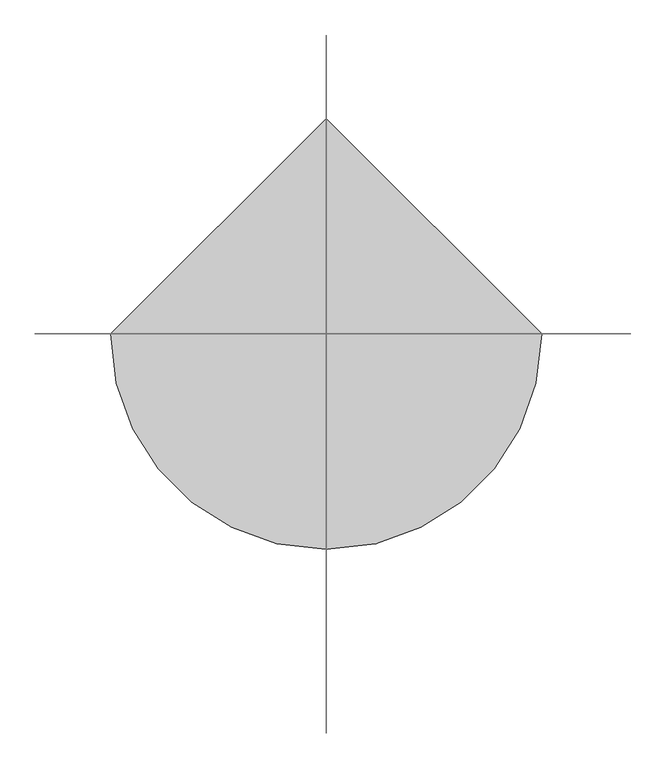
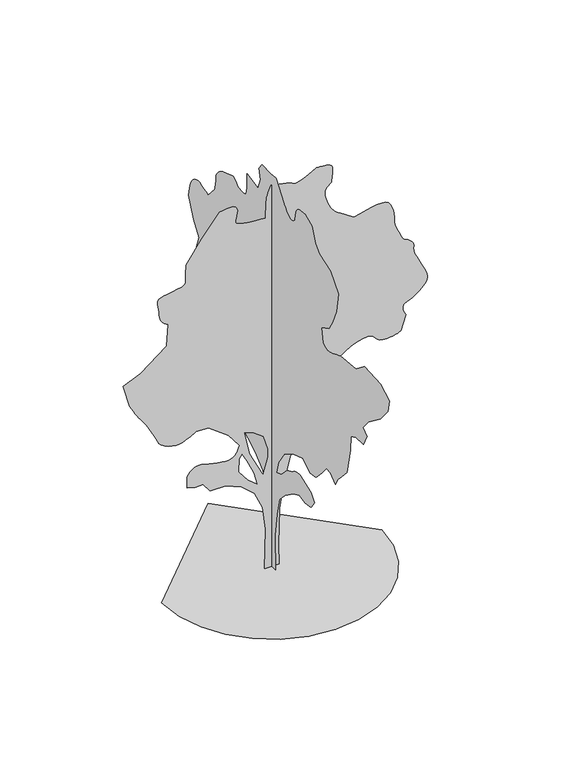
"""IFC4 building model written with IfcOpenShell, lengths in millimetres: geographic element geometry, Vegetacion PAEMFE : CIRUELO DE JARDIN."""

from ifc_helpers import new_model, si_unit, origin, place, context, project, spatial, triangles, source, transform, mapped, element, save


def geographic_element_5d79db10(model_context):
    return source(origin(), model_context, "Body", "Tessellation", [
        triangles([(-0.0042912, 116.0017584, 0.0091155), (-0.0042912, -112.1466976, 0.0091155), (-0.0042912, -91.4060758, 611.8588011), (-0.0042912, -153.6279592, 1016.303591), (-0.0042912, -226.2207303, 1327.4149063), (-0.0042912, -392.1480841, 1503.7101048), (-0.0042912, -641.0332558, 1680.009082), (-0.0042912, -806.9606277, 1752.599128), (-0.0042912, -972.8879997, 1721.4880909), (-0.0042912, -1149.1831255, 1752.599128), (-0.0042912, -1242.5166, 1887.4154629), (-0.0042912, -1149.1831255, 2011.8599018), (-0.0042912, -817.3323057, 2125.9328808), (-0.0042912, -788.4884268, 2123.607296), (-0.0042912, -759.9166969, 2120.6439594), (-0.0042912, -731.8894833, 2116.4088982), (-0.0042912, -704.6788622, 2110.2722088), (-0.0042912, -678.5572008, 2101.5961395), (-0.0042912, -653.792724, 2089.7427933), (-0.0042912, -630.665502, 2074.0822666), (-0.0042912, -607.5343921, 2057.2122208), (-0.0042912, -582.7738031, 2041.9715813), (-0.0042912, -556.6521054, 2028.0961201), (-0.0042912, -529.4415207, 2015.3054764), (-0.0042912, -501.414307, 2003.3354221), (-0.0042912, -472.8426135, 1991.9060326), (-0.0042912, -443.9986982, 1980.7488647), (-0.0042912, -288.4426227, 1814.8214928), (-0.0042912, -132.8873284, 1752.599128), (-0.0042912, -195.1096024, 1970.3771141), (-0.0042912, -371.4055275, 2229.637888), (-0.0042912, -620.293824, 2385.1935093), (-0.0042912, -910.6657076, 2478.5269112), (-0.0042912, -1118.0720158, 2343.7107216), (-0.0042912, -1283.9993877, 2364.4540775), (-0.0042912, -1460.2944408, 2551.1169571), (-0.0042912, -1595.1107758, 2717.0443291), (-0.0042912, -1719.5514359, 2706.6725784), (-0.0042912, -1854.3676254, 2582.232209), (-0.0042912, -1937.3292767, 2727.4160797), (-0.0042912, -2030.6626785, 2831.117308), (-0.0042912, -2196.5900505, 3007.4164307), (-0.0042912, -2300.2912788, 3474.0832947), (-0.0042912, -2310.6630295, 3722.9724632), (-0.0042912, -2455.8509697, 3785.1907585), (-0.0042912, -2683.996637, 3805.9342598), (-0.0042912, -2777.3298935, 4002.9533386), (-0.0042912, -2663.2572052, 4096.2865952), (-0.0042912, -2818.8128265, 4282.9533989), (-0.0042912, -3171.4032234, 4552.6093231), (-0.0042912, -3399.5526695, 4822.2260056), (-0.0042912, -3441.0315331, 5040.0039917), (-0.0042912, -3181.7746834, 5185.1765259), (-0.0042912, -2704.7360687, 5205.9432816), (-0.0042912, -2466.2186508, 5019.2761871), (-0.0042912, -2009.9232468, 4967.3985397), (-0.0042912, -1947.9421463, 4943.0930466), (-0.0042912, -1887.4154629, 4919.6037827), (-0.0042912, -1829.785841, 4897.74814), (-0.0042912, -1776.5158367, 4878.3429291), (-0.0042912, -1729.0480946, 4862.2037979), (-0.0042912, -1688.8368862, 4850.1484291), (-0.0042912, -1657.329071, 4842.9538101), (-0.0042912, -1629.1229439, 4842.5648804), (-0.0042912, -1599.279562, 4848.7095634), (-0.0042912, -1569.9845478, 4859.0150391), (-0.0042912, -1543.4079723, 4871.1483101), (-0.0042912, -1521.7312431, 4882.7374283), (-0.0042912, -1507.1283554, 4891.4095734), (-0.0042912, -1501.7734497, 4894.8314575), (-0.0042912, -1449.9228355, 5143.7209167), (-0.0042912, -1667.7008217, 5257.7819778), (-0.0042912, -1771.4058289, 5423.7212677), (-0.0042912, -1885.4786625, 5693.3379501), (-0.0042912, -1947.7010273, 6035.5606659), (-0.0042912, -1709.1836094, 6305.1773483), (-0.0042912, -1398.0722214, 6419.2773605), (-0.0042912, -1273.6276371, 6533.3384216), (-0.0042912, -1180.2943079, 6782.2278809), (-0.0042912, -962.5163218, 6865.1774689), (-0.0042912, -927.0496639, 6865.0222458), (-0.0042912, -892.1313011, 6863.9723099), (-0.0042912, -858.2979012, 6861.0945786), (-0.0042912, -826.0979044, 6855.5332901), (-0.0042912, -796.075609, 6846.2774597), (-0.0042912, -768.7756039, 6832.5498093), (-0.0042912, -744.7384083, 6813.3387726), (-0.0042912, -725.2356016, 6789.3053558), (-0.0042912, -710.6327866, 6762.005278), (-0.0042912, -700.1133705, 6731.9832733), (-0.0042912, -692.8566914, 6699.7829132), (-0.0042912, -688.050008, 6665.9495132), (-0.0042912, -684.8728037, 6631.0278076), (-0.0042912, -682.5161161, 6595.5607864), (-0.0042912, -664.6193888, 6575.8050156), (-0.0042912, -645.9916014, 6557.6049637), (-0.0042912, -625.9171726, 6542.5163498), (-0.0042912, -603.6649335, 6532.0164093), (-0.0042912, -578.5115633, 6527.6998123), (-0.0042912, -549.726002, 6531.0827454), (-0.0042912, -516.5887442, 6543.7220901), (-0.0042912, -483.7548471, 6562.0773651), (-0.0042912, -455.8209054, 6581.5610596), (-0.0042912, -431.9664748, 6601.9388855), (-0.0042912, -411.3747811, 6623.0550385), (-0.0042912, -393.2330832, 6644.6775558), (-0.0042912, -376.726678, 6666.6884216), (-0.0042912, -361.0350122, 6688.894043), (-0.0042912, -215.8502332, 6885.9442245), (-0.0042912, -122.5168222, 7000.005867), (-0.0042912, 33.0389376, 6989.6221985), (-0.0042912, 281.9275589, 7000.005867), (-0.0042912, 375.2605611, 6875.5611374), (-0.0042912, 333.7793358, 6699.2777115), (-0.0042912, 406.3736692, 6502.2275299), (-0.0042912, 727.8528111, 6564.4498947), (-0.0042912, 727.8528111, 6336.2882401), (-0.0042912, 730.2406013, 6300.9770233), (-0.0042912, 733.6278219, 6266.8715469), (-0.0042912, 739.0100515, 6235.3327744), (-0.0042912, 747.3867205, 6207.6437668), (-0.0042912, 759.7494833, 6184.9718948), (-0.0042912, 777.1056187, 6168.6769592), (-0.0042912, 800.4467812, 6160.0048141), (-0.0042912, 827.112886, 6156.7771042), (-0.0042912, 853.7789909, 6155.7271683), (-0.0042912, 880.4451685, 6156.4660767), (-0.0042912, 907.1112734, 6158.6828018), (-0.0042912, 933.7773783, 6161.988414), (-0.0042912, 960.4474073, 6165.9939835), (-0.0042912, 987.1135849, 6170.3884827), (-0.0042912, 1011.570813, 6194.5771225), (-0.0042912, 1036.1213493, 6217.44375), (-0.0042912, 1060.8547234, 6237.5884506), (-0.0042912, 1085.856395, 6253.6496796), (-0.0042912, 1111.2236692, 6264.265892), (-0.0042912, 1137.0459303, 6268.0772873), (-0.0042912, 1163.4087107, 6263.7217392), (-0.0042912, 1443.408989, 6170.3884827), (-0.0042912, 1483.1378139, 6143.6325577), (-0.0042912, 1521.2334538, 6116.3324799), (-0.0042912, 1556.0622871, 6087.943515), (-0.0042912, 1585.9951984, 6057.9215103), (-0.0042912, 1609.3946423, 6025.7217316), (-0.0042912, 1624.6313576, 5990.7994446), (-0.0042912, 1630.0757927, 5952.6104965), (-0.0042912, 1631.2851665, 5913.4878845), (-0.0042912, 1634.6724598, 5876.0378448), (-0.0042912, 1639.8718517, 5839.94935), (-0.0042912, 1646.5218819, 5804.9491608), (-0.0042912, 1654.260799, 5770.7268311), (-0.0042912, 1662.726852, 5737.0881866), (-0.0042912, 1671.5546562, 5703.7210373), (-0.0042912, 1868.5932106, 5485.9430511), (-0.0042912, 1928.5171692, 5512.1931931), (-0.0042912, 1987.9899925, 5536.1097565), (-0.0042912, 2046.552697, 5555.3213745), (-0.0042912, 2103.754438, 5567.4543549), (-0.0042912, 2159.143935, 5570.137912), (-0.0042912, 2212.2662739, 5561.037886), (-0.0042912, 2262.6662498, 5537.7823288), (-0.0042912, 2306.416341, 5501.849057), (-0.0042912, 2340.9146713, 5457.1657379), (-0.0042912, 2367.7014084, 5405.248558), (-0.0042912, 2388.320208, 5347.5375458), (-0.0042912, 2404.3153072, 5285.4709854), (-0.0042912, 2417.2264378, 5220.4877426), (-0.0042912, 2428.5936218, 5154.0650528), (-0.0042912, 2293.7774323, 4801.498201), (-0.0042912, 2127.8539845, 4573.3371277), (-0.0042912, 2262.6662498, 4200.0032295), (-0.0042912, 2138.2216656, 4002.9533386), (-0.0042912, 2087.4288357, 3985.0643143), (-0.0042912, 2038.5417034, 3966.4363815), (-0.0042912, 1993.4616062, 3946.3698738), (-0.0042912, 1954.0943871, 3924.1253014), (-0.0042912, 1922.3493771, 3898.9643372), (-0.0042912, 1900.1282043, 3870.1826637), (-0.0042912, 1889.3326424, 3837.0451515), (-0.0042912, 1885.7976837, 3801.7923615), (-0.0042912, 1883.8921314, 3767.0802361), (-0.0042912, 1883.3476879, 3732.8268036), (-0.0042912, 1883.8921314, 3698.9352676), (-0.0042912, 1885.2532402, 3665.3117386), (-0.0042912, 1887.1587925, 3631.8751167), (-0.0042912, 1889.3326424, 3598.5239548), (-0.0042912, 1847.8536335, 3432.6006523), (-0.0042912, 1557.4818226, 3463.711544), (-0.0042912, 1533.3550976, 3415.0342827), (-0.0042912, 1511.1339249, 3367.6249672), (-0.0042912, 1492.7200779, 3322.7588104), (-0.0042912, 1480.0228878, 3281.6999794), (-0.0042912, 1474.9439827, 3245.723687), (-0.0042912, 1479.3889149, 3216.0903214), (-0.0042912, 1495.2594578, 3194.0832344), (-0.0042912, 1520.9884106, 3175.820977), (-0.0042912, 1552.5234043, 3157.1971138), (-0.0042912, 1588.0485615, 3139.1174034), (-0.0042912, 1625.7513474, 3122.4884766), (-0.0042912, 1663.8157391, 3108.2163826), (-0.0042912, 1700.4296379, 3097.2109497), (-0.0042912, 1733.7768757, 3090.3779366), (-0.0042912, 1763.9820087, 3084.4201607), (-0.0042912, 1792.5536659, 3075.7442368), (-0.0042912, 1819.7642143, 3064.8007187), (-0.0042912, 1845.8858757, 3052.0413231), (-0.0042912, 1871.194796, 3037.9206734), (-0.0042912, 1895.9553486, 3022.8939743), (-0.0042912, 1920.4438248, 3007.4164307), (-0.0042912, 2158.9650215, 3131.8608696), (-0.0042912, 2227.5339466, 3149.364743), (-0.0042912, 2294.2012436, 3165.2390648), (-0.0042912, 2357.057436, 3177.8470161), (-0.0042912, 2414.2007504, 3185.5546852), (-0.0042912, 2463.7257797, 3186.7331017), (-0.0042912, 2503.7271172, 3179.7524231), (-0.0042912, 2532.2948502, 3162.972052), (-0.0042912, 2551.1948593, 3138.6313866), (-0.0042912, 2564.1019203, 3110.4836861), (-0.0042912, 2572.0238205, 3079.1623421), (-0.0042912, 2575.9552666, 3045.29813), (-0.0042912, 2576.8927094, 3009.5317085), (-0.0042912, 2575.8349251, 2972.4941437), (-0.0042912, 2573.7774925, 2934.8223152), (-0.0042912, 2538.1319939, 2897.3606483), (-0.0042912, 2501.9420517, 2861.8084579), (-0.0042912, 2464.6632225, 2830.0595238), (-0.0042912, 2425.7507721, 2804.0271011), (-0.0042912, 2384.6608383, 2785.6171783), (-0.0042912, 2340.8524658, 2776.727314), (-0.0042912, 2293.7774323, 2779.2666939), (-0.0042912, 2243.9217545, 2790.2099213), (-0.0042912, 2193.3389408, 2803.3349922), (-0.0042912, 2143.8450142, 2815.7290031), (-0.0042912, 2097.2561428, 2824.4982353), (-0.0042912, 2055.3805012, 2826.734436), (-0.0042912, 2020.038327, 2819.5401077), (-0.0042912, 1993.0376495, 2800.0061256), (-0.0042912, 1972.6288662, 2774.8527191), (-0.0042912, 1955.4865986, 2752.4177513), (-0.0042912, 1941.0626244, 2732.2538658), (-0.0042912, 1928.8204937, 2713.902079), (-0.0042912, 1918.2076241, 2696.9077675), (-0.0042912, 1908.6837868, 2680.8232841), (-0.0042912, 1899.7042477, 2665.1937149), (-0.0042912, 1935.0465672, 2660.5076637), (-0.0042912, 1969.1210861, 2654.3711197), (-0.0042912, 2000.6560799, 2645.3292297), (-0.0042912, 2028.379969, 2631.9358612), (-0.0042912, 2051.0249531, 2612.7364517), (-0.0042912, 2067.3233768, 2586.2805084), (-0.0042912, 2075.9994461, 2551.1169571), (-0.0042912, 2079.5383289, 2509.9104607), (-0.0042912, 2081.4438812, 2466.52183), (-0.0042912, 2081.9883247, 2421.3213913), (-0.0042912, 2081.4438812, 2374.6701691), (-0.0042912, 2080.0827724, 2326.9302052), (-0.0042912, 2078.1772202, 2278.4668842), (-0.0042912, 2075.9994461, 2229.637888), (-0.0042912, 2022.7294418, 2189.9400204), (-0.0042912, 1969.8171192, 2152.0545422), (-0.0042912, 1917.6320778, 2117.8011097), (-0.0042912, 1866.5359234, 2088.9883335), (-0.0042912, 1816.894186, 2067.4322365), (-0.0042912, 1769.0609138, 2054.9449173), (-0.0042912, 1723.4091946, 2053.3426895), (-0.0042912, 1677.7535511, 2058.993362), (-0.0042912, 1629.9240578, 2066.8255875), (-0.0042912, 1580.2785416, 2076.4700569), (-0.0042912, 1529.1823872, 2087.5650192), (-0.0042912, 1476.9973457, 2099.7527927), (-0.0042912, 1424.0889473, 2112.6599991), (-0.0042912, 1370.8150188, 2125.9328808), (-0.0042912, 1059.7036308, 2053.3426895), (-0.0042912, 696.7417013, 1866.6758858), (-0.0042912, 489.3353931, 1752.599128), (-0.0042912, 250.816431, 1555.5646431), (-0.0042912, 105.6312522, 1254.8248604), (-0.0042912, 64.1499951, 829.6367872), (-0.0042912, 105.6312522, 404.4525292), (122.8065393, 0.0003907, 0.0), (-126.0821569, 0.0003907, 0.0), (-105.3415261, 0.0003418, 705.1844273), (-157.1929124, 0.0003093, 1109.6292171), (-292.0079574, 0.000293, 1399.9972492), (-509.7870881, 0.000293, 1597.0356583), (-779.4156521, 0.0002767, 1711.1086372), (-1038.6725018, 0.0002767, 1711.1086372), (-1163.1209375, 0.0002767, 1866.6642586), (-1297.9332756, 0.0002767, 1866.6642586), (-1432.7494652, 0.0002767, 1897.775441), (-1432.7494652, 0.0002604, 2094.81385), (-1405.9005226, 0.0002604, 2130.0355373), (-1377.9628384, 0.0002604, 2163.2622883), (-1347.8510136, 0.0002442, 2192.4990211), (-1314.472673, 0.0002442, 2215.7506542), (-1276.7387844, 0.0002442, 2231.0184723), (-1233.5643848, 0.0002442, 2236.3111725), (-1183.8603693, 0.0002442, 2229.6301849), (-1124.8425327, 0.0002442, 2214.6928699), (-1057.1175241, 0.0002442, 2197.7606186), (-984.6752163, 0.0002604, 2180.6494537), (-911.5096241, 0.0002604, 2165.1678406), (-841.6067688, 0.0002604, 2153.1355808), (-778.9605927, 0.0002604, 2146.3611397), (-727.5611137, 0.0002604, 2146.6644642), (-686.7471806, 0.0002604, 2155.9473278), (-652.462718, 0.0002604, 2173.9373634), (-623.6188391, 0.0002442, 2199.1839329), (-599.1265841, 0.0002442, 2230.2329098), (-577.9049143, 0.0002442, 2265.6374348), (-558.8571307, 0.0002442, 2303.9429455), (-540.8981978, 0.0002442, 2343.7030186), (-727.5611137, 0.0002279, 2592.5920418), (-1069.7836115, 0.0002116, 2841.4812103), (-1277.1938438, 0.0002116, 2851.8488914), (-1310.6615685, 0.0002116, 2831.8951675), (-1344.9461037, 0.0002116, 2812.2132294), (-1380.8677483, 0.0002116, 2793.0760254), (-1419.2316856, 0.0002116, 2774.7515625), (-1460.8662083, 0.0002116, 2757.5200562), (-1506.5801331, 0.0002116, 2741.6454437), (-1557.1940495, 0.0002279, 2727.4044525), (-1615.422472, 0.0002279, 2722.477137), (-1680.1840714, 0.0002279, 2732.4250763), (-1746.5791466, 0.0002116, 2754.3426338), (-1809.7114849, 0.0002116, 2785.3334747), (-1864.6770252, 0.0002116, 2822.4916718), (-1906.5798454, 0.0002116, 2862.9168205), (-1930.5237328, 0.0002116, 2903.7035751), (-1951.4188236, 0.0002116, 2954.554541), (-1984.6454292, 0.0001953, 3022.2797676), (-2026.0349087, 0.0001953, 3099.6218491), (-2071.4183304, 0.0001953, 3179.3169846), (-2116.6189144, 0.0001953, 3254.1159073), (-2157.4639503, 0.0001791, 3316.7620834), (-2189.7845066, 0.0001791, 3359.9986885), (-2217.0572605, 0.0001791, 3394.4349586), (-2245.4151226, 0.0001791, 3434.8601074), (-2274.6829582, 0.0001791, 3480.270417), (-2304.6740055, 0.0001791, 3529.6711807), (-2335.2096416, 0.0001628, 3582.0700172), (-2366.1108078, 0.0001628, 3636.4600113), (-2397.1907421, 0.0001628, 3691.8496536), (-2511.2676453, 0.0001465, 4085.9421684), (-2210.5239384, 0.0001302, 4210.3866074), (-1774.9720356, 0.0001139, 4552.6093231), (-1754.2286797, 8.14e-05, 4925.9039795), (-1785.1297005, 8.14e-05, 4948.3427261), (-1814.7592873, 8.14e-05, 4971.8319901), (-1841.8492035, 8.14e-05, 4997.4984467), (-1865.1281605, 8.14e-05, 5026.4315643), (-1883.3282124, 8.14e-05, 5059.7208115), (-1895.1815586, 8.14e-05, 5098.4539124), (-1899.4164745, 8.14e-05, 5143.6819656), (-1903.1653736, 6.51e-05, 5194.6265305), (-1911.6276478, 6.51e-05, 5247.7488693), (-1920.6381443, 6.51e-05, 5300.1706696), (-1926.0203739, 6.51e-05, 5348.9374603), (-1923.6014809, 6.51e-05, 5391.170929), (-1909.2087547, 6.51e-05, 5423.954393), (-1878.6731186, 6.51e-05, 5444.4490723), (-1825.1891739, 6.51e-05, 5457.320961), (-1751.7513599, 4.88e-05, 5470.0376266), (-1668.8790928, 4.88e-05, 5483.610054), (-1587.0957127, 4.88e-05, 5499.2434021), (-1516.9206356, 4.88e-05, 5517.9097046), (-1468.8773472, 4.88e-05, 5540.7769135), (-1453.4888969, 4.88e-05, 5568.8932205), (-1456.7244553, 4.88e-05, 5602.7266205), (-1457.7822395, 4.88e-05, 5641.4603027), (-1457.0240009, 4.88e-05, 5684.2768753), (-1454.818903, 4.88e-05, 5730.3211578), (-1451.5250633, 3.26e-05, 5778.8548233), (-1447.5039425, 3.26e-05, 5829.0215286), (-1443.1172916, 3.26e-05, 5880.0044632), (-1183.8603693, 1.63e-05, 6253.3380707), (-883.1207319, -1.63e-05, 6626.6716782), (-819.113447, -1.63e-05, 6637.3274231), (-757.7389229, -1.63e-05, 6645.3775131), (-701.6222174, -1.63e-05, 6648.1773422), (-653.3999428, -1.63e-05, 6643.0439346), (-615.6971569, -1.63e-05, 6627.4105865), (-591.1465842, -1.63e-05, 6598.6332733), (-582.377134, 0.0, 6554.0662262), (-586.7015794, 0.0, 6503.8605698), (-596.6493733, 0.0, 6459.6051315), (-607.6860543, 0.0, 6421.0272537), (-615.2732729, 0.0, 6387.6606857), (-614.8804916, 0.0, 6359.1938187), (-601.9693611, 0.0, 6335.2772552), (-572.0093439, 0.0, 6315.5604355), (-526.5676409, 0.0, 6299.5771088), (-471.3259183, 0.0, 6286.8993942), (-407.9253187, 1.63e-05, 6276.9052368), (-337.9944855, 1.63e-05, 6269.1272232), (-263.1644418, 1.63e-05, 6262.9438797), (-185.0692632, 1.63e-05, 6257.8494232), (-105.3415261, 1.63e-05, 6253.3380707), (-94.9706293, 0.0, 6533.3384216), (-92.5517363, -1.63e-05, 6573.0441376), (-85.7792391, -1.63e-05, 6612.1661682), (-75.3787838, -1.63e-05, 6650.8608994), (-62.0756623, -1.63e-05, 6689.2050705), (-46.5955389, -1.63e-05, 6727.2777466), (-29.6645456, -1.63e-05, 6765.1556671), (-12.0077314, -1.63e-05, 6802.9556854), (58.7708813, -1.63e-05, 6789.5774323), (127.5541056, -1.63e-05, 6776.0445374), (192.3461627, -1.63e-05, 6762.1610825), (251.1520391, -1.63e-05, 6747.6945236), (301.9759718, -1.63e-05, 6732.5274261), (342.8225701, -1.63e-05, 6716.4278275), (371.6960258, -1.63e-05, 6699.2387604), (409.2786518, -1.63e-05, 6694.2222061), (470.4392718, -1.63e-05, 6709.8945053), (544.4837711, -1.63e-05, 6738.9834274), (620.7060808, -1.63e-05, 6774.2556931), (688.3999866, -1.63e-05, 6808.4001205), (736.8633802, -3.26e-05, 6834.2223816), (755.3978594, -3.26e-05, 6844.4496643), (770.335029, -3.26e-05, 6844.7612732), (808.8545528, -3.26e-05, 6844.3333923), (861.5218323, -3.26e-05, 6841.1830032), (918.9062656, -3.26e-05, 6833.3276688), (971.5735451, -1.63e-05, 6818.7442566), (1010.0929962, -1.63e-05, 6795.4497482), (1025.0302385, -1.63e-05, 6761.4611252), (1024.4235895, -1.63e-05, 6722.0664368), (1022.731905, -1.63e-05, 6683.7606354), (1020.1302469, -1.63e-05, 6646.3884979), (1016.8052319, -1.63e-05, 6609.7163177), (1012.9358459, -1.63e-05, 6573.5888718), (1008.7007847, 0.0, 6537.8108231), (1004.2868826, 0.0, 6502.2275299), (977.8618967, 0.0, 6482.0049271), (952.8913279, 0.0, 6460.6550674), (930.8179659, 0.0, 6436.8943085), (913.100152, 0.0, 6409.6331818), (901.1885244, 0.0, 6377.665947), (896.5335033, 0.0, 6339.7886078), (900.5857269, 0.0, 6294.7936798), (911.8907055, 1.63e-05, 6244.9385834), (927.5513048, 1.63e-05, 6194.1492416), (946.8440952, 1.63e-05, 6144.0604385), (969.0340925, 1.63e-05, 6096.3435837), (993.4019365, 1.63e-05, 6052.6328796), (1019.2241249, 1.63e-05, 6014.5212524), (1045.769743, 3.26e-05, 5983.6824371), (1076.9703094, 3.26e-05, 5955.527179), (1116.3375286, 3.26e-05, 5924.6104614), (1162.5025887, 3.26e-05, 5891.4380676), (1214.1159353, 3.26e-05, 5856.4768295), (1269.8049053, 3.26e-05, 5820.1156769), (1328.2160202, 3.26e-05, 5782.8993439), (1387.992168, 3.26e-05, 5745.1766464), (1491.9967209, 3.26e-05, 5773.6435135), (1593.3723644, 3.26e-05, 5799.4657745), (1689.4864105, 3.26e-05, 5819.9988235), (1777.7135834, 3.26e-05, 5832.6771194), (1855.4136372, 3.26e-05, 5834.8159424), (1919.9653656, 3.26e-05, 5823.8102188), (1968.7321564, 3.26e-05, 5797.0159241), (2003.8643143, 3.26e-05, 5753.4604431), (2030.1066078, 4.88e-05, 5697.3824707), (2048.730471, 4.88e-05, 5634.0322678), (2061.007774, 4.88e-05, 5568.6990463), (2068.2022476, 4.88e-05, 5506.6319046), (2071.5893955, 6.51e-05, 5453.0822662), (2072.4371635, 6.51e-05, 5413.3375992), (2080.4794052, 6.51e-05, 5370.9489075), (2101.218837, 6.51e-05, 5311.6821762), (2129.5766991, 6.51e-05, 5244.0932785), (2160.4778652, 8.14e-05, 5176.6596039), (2188.8395061, 8.14e-05, 5117.9376068), (2209.5789379, 8.14e-05, 5076.4430466), (2217.6211796, 8.14e-05, 5060.7317963), (2228.4751682, 8.14e-05, 5056.4151993), (2256.1990574, 8.14e-05, 5043.9316589), (2293.5402374, 8.14e-05, 5024.020665), (2333.2379597, 8.14e-05, 4997.3815933), (2368.0358356, 8.14e-05, 4964.7539337), (2390.6808197, 8.14e-05, 4926.8760132), (2393.916378, 9.77e-05, 4884.4483704), (2389.8641544, 9.77e-05, 4841.0484032), (2394.523027, 9.77e-05, 4798.9314972), (2406.4346546, 9.77e-05, 4756.8148819), (2424.1524685, 9.77e-05, 4713.4538658), (2446.2219063, 9.77e-05, 4667.5258553), (2471.1965446, 0.0001139, 4617.7870308), (2497.6213852, 0.0001139, 4562.9537498), (2527.7954155, 0.0001139, 4503.4925537), (2561.2358162, 0.0001139, 4441.4646538), (2592.3158958, 0.0001139, 4378.1923531), (2615.4121605, 0.0001302, 4314.9200523), (2624.9086739, 0.0001302, 4252.8921524), (2615.1708961, 0.0001302, 4193.4312469), (2580.5831818, 0.0001302, 4137.7811554), (2533.994165, 0.0001465, 4089.2867317), (2491.0296364, 0.0001465, 4049.5031136), (2450.2431725, 0.0001465, 4016.9533562), (2410.1835537, 0.0001465, 3990.2363823), (2369.3969444, 0.0001465, 3967.8755379), (2326.43634, 0.0001465, 3948.3921341), (2279.8435444, 0.0001465, 3930.3865471), (2240.3285145, 0.0001465, 3909.5808403), (2217.6796062, 0.0001465, 3883.3231407), (2209.0929211, 0.0001465, 3852.5465309), (2211.756712, 0.0001628, 3818.1375847), (2222.8518196, 0.0001628, 3781.0101997), (2239.5701305, 0.0001628, 3742.0707161), (2259.1039673, 0.0001628, 3702.2214043), (2176.1383919, 0.0001791, 3442.9604851), (2146.9640099, 0.0001791, 3429.7499542), (2116.0628437, 0.0001791, 3417.262635), (2081.716103, 0.0001791, 3406.2260994), (2042.2010731, 0.0001791, 3397.3670471), (1995.7909698, 0.0001791, 3391.4133408), (1940.763224, 0.0001791, 3389.0838318), (1875.3987545, 0.0001791, 3391.1098709), (1816.6841698, 0.0001791, 3404.5616661), (1776.4731068, 0.0001791, 3431.4417114), (1745.3308216, 0.0001791, 3464.8510094), (1713.8269306, 0.0001791, 3497.8949226), (1672.5268353, 0.0001791, 3523.6860809), (1611.9962276, 0.0001791, 3535.3254868), (1522.8045788, 0.0001791, 3525.9222816), (1419.6788967, 0.0001791, 3496.6272675), (1325.0737701, 0.0001791, 3455.3582748), (1241.1748215, 0.0001791, 3405.378186), (1170.1520491, 0.0001791, 3349.9615105), (1114.1908573, 0.0001791, 3292.363282), (1075.4575384, 0.0001953, 3235.8577194), (1056.1414209, 0.0001953, 3183.7036354), (1055.7175369, 0.0001953, 3137.231472), (1070.5302956, 0.0001953, 3095.114566), (1098.0442411, 0.0001953, 3056.6262177), (1135.7159243, 0.0001953, 3021.0429245), (1181.005965, 0.0002116, 2987.6336266), (1231.3787624, 0.0002116, 2955.6745308), (1284.2871609, 0.0002116, 2924.4430069), (1315.1572243, 0.0002116, 2904.3061546), (1344.5766495, 0.0002116, 2883.3527824), (1371.0911648, 0.0002116, 2860.7701492), (1393.2539108, 0.0002116, 2835.7373749), (1409.6106159, 0.0002116, 2807.4379395), (1418.7106419, 0.0002116, 2775.0550323), (1419.1033504, 0.0002116, 2737.7762032), (1414.9617428, 0.0002279, 2692.3345001), (1411.3644333, 0.0002279, 2637.0965927), (1408.2184044, 0.0002279, 2573.6958115), (1405.4377602, 0.0002279, 2503.7619987), (1402.9255589, 0.0002442, 2428.9319733), (1400.5999741, 0.0002442, 2350.8390656), (1398.3599945, 0.0002442, 2271.1090485), (1344.9693581, 0.0002442, 2231.5629158), (1291.2131916, 0.0002442, 2194.7390007), (1236.7298893, 0.0002604, 2163.3555965), (1181.1576273, 0.0002604, 2140.1350662), (1124.1386513, 0.0002604, 2127.799482), (1065.2997282, 0.0002604, 2129.0672825), (1004.2868826, 0.0002604, 2146.6644642), (942.9746367, 0.0002604, 2170.0056267), (883.2917971, 0.0002604, 2187.3616894), (824.9662148, 0.0002442, 2199.7283764), (767.733371, 0.0002442, 2208.1012665), (711.3172651, 0.0002442, 2213.4834961), (655.4455301, 0.0002442, 2216.870644), (599.842129, 0.0002442, 2219.2584343), (423.5470033, 0.0002604, 2105.1856007), (309.4737336, 0.0002767, 1845.9248268), (195.3993194, 0.000293, 1410.3688545), (133.177436, 0.0003256, 985.1847055), (112.4364237, 0.0003581, 362.9627289), (-146.8227877, 0.0001302, 1679.9974548), (-63.859883, 0.0001139, 1970.3694111), (-63.859883, 9.77e-05, 2115.5534271), (-136.451891, 8.14e-05, 2364.4424503), (-323.1183223, 8.14e-05, 2499.2587852), (-468.3042641, 8.14e-05, 2551.1093994), (-374.9708622, 9.77e-05, 2136.2966377), (-240.1554175, 9.77e-05, 1545.1851894), (-302.3776915, 9.77e-05, 1773.3308567), (-416.4536499, 8.14e-05, 2022.2198799), (-499.4154101, 6.51e-05, 2177.7756466), (-551.265988, 6.51e-05, 2105.1856007), (-561.6376659, 8.14e-05, 1877.0360092), (-406.0820083, 9.77e-05, 1679.9974548), (-1857.047113, 0.0, 0.007032), (-1807.953598, -425.5109096, 0.007032), (-1668.1324814, -816.2784456, 0.007032), (-1448.7833702, -1161.0986773, 0.007032), (-1161.0986773, -1448.7833702, 0.007032), (-816.2784456, -1668.1324814, 0.007032), (-425.5109096, -1807.953598, 0.007032), (8.12e-05, -1857.047113, 0.007032), (425.5109096, -1807.953598, 0.007032), (816.2784456, -1668.1324814, 0.007032), (1161.0986773, -1448.7833702, 0.007032), (1448.7833702, -1161.0986773, 0.007032), (1668.1324814, -816.2784456, 0.007032), (1807.953598, -425.5109096, 0.007032), (1857.047113, 0.0001628, 0.007032), (-0.0002435, 1857.047113, 0.007032)], [[38, 39, 40], [115, 116, 117], [1, 2, 3], [280, 1, 3], [279, 280, 3], [279, 3, 4], [278, 279, 4], [278, 4, 5], [186, 187, 188], [277, 278, 5], [46, 47, 48], [45, 46, 48], [277, 5, 6], [185, 186, 188], [10, 11, 12], [9, 10, 12], [9, 12, 13], [8, 9, 13], [8, 13, 14], [8, 14, 15], [8, 15, 16], [8, 16, 17], [8, 17, 18], [8, 18, 19], [8, 19, 20], [8, 20, 21], [7, 8, 21], [7, 21, 22], [7, 22, 23], [7, 23, 24], [7, 24, 25], [7, 25, 26], [6, 7, 26], [6, 26, 27], [6, 27, 28], [277, 6, 28], [277, 28, 29], [51, 52, 53], [50, 51, 53], [50, 53, 54], [50, 54, 55], [49, 50, 55], [49, 55, 56], [48, 49, 56], [48, 56, 57], [45, 48, 57], [44, 45, 57], [44, 57, 58], [44, 58, 59], [44, 59, 60], [44, 60, 61], [44, 61, 62], [44, 62, 63], [276, 277, 29], [276, 29, 30], [184, 185, 188], [183, 184, 188], [44, 63, 64], [115, 117, 118], [111, 112, 113], [111, 113, 114], [182, 183, 188], [109, 110, 111], [109, 111, 114], [108, 109, 114], [108, 114, 115], [107, 108, 115], [106, 107, 115], [105, 106, 115], [104, 105, 115], [115, 118, 119], [170, 171, 172], [170, 172, 173], [170, 173, 174], [170, 174, 175], [74, 75, 76], [74, 76, 77], [73, 74, 77], [72, 73, 77], [71, 72, 77], [258, 259, 260], [181, 182, 188], [78, 79, 80], [170, 175, 176], [103, 104, 115], [78, 80, 81], [44, 64, 65], [275, 276, 30], [275, 30, 31], [274, 275, 31], [78, 81, 82], [78, 82, 83], [78, 83, 84], [78, 84, 85], [78, 85, 86], [78, 86, 87], [78, 87, 88], [78, 88, 89], [78, 89, 90], [78, 90, 91], [78, 91, 92], [78, 92, 93], [78, 93, 94], [78, 94, 95], [78, 95, 96], [71, 77, 78], [71, 78, 96], [71, 96, 97], [71, 97, 98], [71, 98, 99], [71, 99, 100], [115, 119, 120], [180, 181, 188], [38, 40, 41], [223, 224, 225], [33, 34, 35], [33, 35, 36], [33, 36, 37], [102, 103, 115], [179, 180, 188], [44, 65, 66], [170, 176, 177], [71, 100, 101], [43, 44, 66], [42, 43, 66], [41, 42, 66], [38, 41, 66], [37, 38, 66], [33, 37, 66], [33, 66, 67], [33, 67, 68], [33, 68, 69], [33, 69, 70], [32, 33, 70], [31, 32, 70], [274, 31, 70], [273, 274, 70], [273, 70, 71], [273, 71, 101], [273, 101, 102], [273, 102, 115], [273, 115, 120], [273, 120, 121], [273, 121, 122], [273, 122, 123], [273, 123, 124], [273, 124, 125], [273, 125, 126], [273, 126, 127], [273, 127, 128], [273, 128, 129], [273, 129, 130], [273, 130, 131], [272, 273, 131], [271, 272, 131], [270, 271, 131], [269, 270, 131], [268, 269, 131], [268, 131, 132], [268, 132, 133], [268, 133, 134], [167, 168, 169], [257, 258, 260], [257, 260, 261], [256, 257, 261], [256, 261, 262], [255, 256, 262], [255, 262, 263], [254, 255, 263], [254, 263, 264], [254, 264, 265], [254, 265, 266], [254, 266, 267], [254, 267, 268], [253, 254, 268], [252, 253, 268], [251, 252, 268], [250, 251, 268], [249, 250, 268], [248, 249, 268], [247, 248, 268], [246, 247, 268], [245, 246, 268], [166, 167, 169], [165, 166, 169], [164, 165, 169], [163, 164, 169], [162, 163, 169], [161, 162, 169], [160, 161, 169], [159, 160, 169], [158, 159, 169], [157, 158, 169], [156, 157, 169], [155, 156, 169], [154, 155, 169], [154, 169, 170], [154, 170, 177], [153, 154, 177], [153, 177, 178], [153, 178, 179], [153, 179, 188], [222, 223, 225], [222, 225, 226], [221, 222, 226], [220, 221, 226], [219, 220, 226], [218, 219, 226], [217, 218, 226], [216, 217, 226], [215, 216, 226], [214, 215, 226], [213, 214, 226], [212, 213, 226], [212, 226, 227], [212, 227, 228], [212, 228, 229], [212, 229, 230], [212, 230, 231], [211, 212, 231], [211, 231, 232], [211, 232, 233], [210, 211, 233], [209, 210, 233], [209, 233, 234], [209, 234, 235], [209, 235, 236], [209, 236, 237], [209, 237, 238], [209, 238, 239], [209, 239, 240], [208, 209, 240], [208, 240, 241], [207, 208, 241], [206, 207, 241], [206, 241, 242], [205, 206, 242], [204, 205, 242], [204, 242, 243], [203, 204, 243], [202, 203, 243], [202, 243, 244], [201, 202, 244], [201, 244, 245], [201, 245, 268], [200, 201, 268], [199, 200, 268], [198, 199, 268], [197, 198, 268], [196, 197, 268], [195, 196, 268], [194, 195, 268], [153, 188, 189], [153, 189, 190], [152, 153, 190], [152, 190, 191], [151, 152, 191], [136, 137, 138], [135, 136, 138], [135, 138, 139], [134, 135, 139], [134, 139, 140], [134, 140, 141], [134, 141, 142], [134, 142, 143], [134, 143, 144], [134, 144, 145], [134, 145, 146], [134, 146, 147], [134, 147, 148], [134, 148, 149], [134, 149, 150], [134, 150, 151], [134, 151, 191], [134, 191, 192], [134, 192, 193], [268, 134, 193], [194, 268, 193], [583, 580, 581], [574, 281, 575], [580, 583, 584], [573, 574, 575], [583, 581, 575], [580, 584, 585], [572, 573, 575], [582, 583, 575], [582, 575, 281], [571, 572, 575], [571, 575, 576], [281, 282, 283], [570, 571, 576], [570, 576, 577], [344, 345, 346], [290, 291, 292], [406, 407, 408], [570, 577, 578], [290, 292, 293], [289, 290, 293], [289, 293, 294], [289, 294, 295], [289, 295, 296], [289, 296, 297], [289, 297, 298], [289, 298, 299], [289, 299, 300], [289, 300, 301], [289, 301, 302], [289, 302, 303], [288, 289, 303], [287, 288, 303], [287, 303, 304], [287, 304, 305], [287, 305, 306], [286, 287, 306], [286, 306, 307], [286, 307, 308], [286, 308, 309], [569, 570, 578], [554, 555, 556], [405, 406, 408], [343, 344, 346], [512, 513, 514], [511, 512, 514], [511, 514, 515], [511, 515, 516], [511, 516, 517], [510, 511, 517], [510, 517, 518], [510, 518, 519], [510, 519, 520], [510, 520, 521], [510, 521, 522], [510, 522, 523], [510, 523, 524], [509, 510, 524], [509, 524, 525], [508, 509, 525], [434, 435, 436], [342, 343, 346], [507, 508, 525], [507, 525, 526], [405, 408, 409], [404, 405, 409], [403, 404, 409], [403, 409, 410], [402, 403, 410], [401, 402, 410], [400, 401, 410], [400, 410, 411], [399, 400, 411], [399, 411, 412], [399, 412, 413], [399, 413, 414], [399, 414, 415], [377, 378, 379], [341, 342, 346], [341, 346, 347], [340, 341, 347], [339, 340, 347], [338, 339, 347], [337, 338, 347], [336, 337, 347], [335, 336, 347], [334, 335, 347], [333, 334, 347], [377, 379, 380], [377, 380, 381], [377, 381, 382], [377, 382, 383], [377, 383, 384], [377, 384, 385], [377, 385, 386], [377, 386, 387], [377, 387, 388], [377, 388, 389], [377, 389, 390], [377, 390, 391], [376, 377, 391], [376, 391, 392], [375, 376, 392], [374, 375, 392], [373, 374, 392], [372, 373, 392], [372, 392, 393], [371, 372, 393], [370, 371, 393], [369, 370, 393], [369, 393, 394], [369, 394, 395], [369, 395, 396], [332, 333, 347], [369, 396, 397], [426, 427, 428], [426, 428, 429], [425, 426, 429], [425, 429, 430], [424, 425, 430], [424, 430, 431], [423, 424, 431], [423, 431, 432], [422, 423, 432], [422, 432, 433], [421, 422, 433], [420, 421, 433], [419, 420, 433], [418, 419, 433], [418, 433, 434], [418, 434, 436], [418, 436, 437], [418, 437, 438], [418, 438, 439], [417, 418, 439], [417, 439, 440], [416, 417, 440], [416, 440, 441], [415, 416, 441], [399, 415, 441], [399, 441, 442], [399, 442, 443], [399, 443, 444], [399, 444, 445], [399, 445, 446], [399, 446, 447], [399, 447, 448], [399, 448, 449], [369, 397, 398], [331, 332, 347], [368, 369, 398], [360, 361, 362], [359, 360, 362], [359, 362, 363], [358, 359, 363], [358, 363, 364], [357, 358, 364], [357, 364, 365], [356, 357, 365], [355, 356, 365], [355, 365, 366], [354, 355, 366], [353, 354, 366], [352, 353, 366], [351, 352, 366], [350, 351, 366], [349, 350, 366], [348, 349, 366], [348, 366, 367], [348, 367, 368], [348, 368, 398], [347, 348, 398], [347, 398, 399], [347, 399, 449], [347, 449, 450], [347, 450, 451], [347, 451, 452], [331, 347, 452], [331, 452, 453], [331, 453, 454], [331, 454, 455], [331, 455, 456], [330, 331, 456], [329, 330, 456], [328, 329, 456], [327, 328, 456], [326, 327, 456], [325, 326, 456], [324, 325, 456], [323, 324, 456], [322, 323, 456], [321, 322, 456], [320, 321, 456], [319, 320, 456], [318, 319, 456], [317, 318, 456], [316, 317, 456], [315, 316, 456], [314, 315, 456], [314, 456, 457], [314, 457, 458], [314, 458, 459], [314, 459, 460], [314, 460, 461], [314, 461, 462], [314, 462, 463], [314, 463, 464], [314, 464, 465], [314, 465, 466], [314, 466, 467], [314, 467, 468], [314, 468, 469], [314, 469, 470], [314, 470, 471], [314, 471, 472], [314, 472, 473], [314, 473, 474], [314, 474, 475], [314, 475, 476], [314, 476, 477], [314, 477, 478], [314, 478, 479], [314, 479, 480], [314, 480, 481], [314, 481, 482], [314, 482, 483], [314, 483, 484], [314, 484, 485], [314, 485, 486], [314, 486, 487], [314, 487, 488], [314, 488, 489], [314, 489, 490], [314, 490, 491], [314, 491, 492], [314, 492, 493], [314, 493, 494], [314, 494, 495], [314, 495, 496], [314, 496, 497], [314, 497, 498], [314, 498, 499], [314, 499, 500], [314, 500, 501], [314, 501, 502], [580, 585, 586], [554, 556, 557], [553, 554, 557], [553, 557, 558], [553, 558, 559], [553, 559, 560], [553, 560, 561], [553, 561, 562], [553, 562, 563], [552, 553, 563], [552, 563, 564], [551, 552, 564], [550, 551, 564], [550, 564, 565], [549, 550, 565], [549, 565, 566], [548, 549, 566], [547, 548, 566], [546, 547, 566], [545, 546, 566], [544, 545, 566], [543, 544, 566], [542, 543, 566], [541, 542, 566], [540, 541, 566], [539, 540, 566], [538, 539, 566], [538, 566, 567], [537, 538, 567], [537, 567, 568], [537, 568, 569], [537, 569, 578], [536, 537, 578], [535, 536, 578], [535, 578, 579], [534, 535, 579], [534, 579, 580], [533, 534, 580], [532, 533, 580], [507, 526, 527], [506, 507, 527], [531, 532, 580], [506, 527, 528], [530, 531, 580], [281, 283, 284], [582, 281, 284], [582, 284, 285], [582, 285, 286], [588, 582, 286], [587, 588, 286], [587, 286, 309], [586, 587, 309], [586, 309, 310], [586, 310, 311], [586, 311, 312], [586, 312, 313], [580, 586, 313], [580, 313, 314], [530, 580, 314], [529, 530, 314], [502, 503, 504], [502, 504, 505], [314, 502, 505], [529, 314, 505], [529, 505, 506], [529, 506, 528], [603, 604, 589], [602, 603, 589], [602, 589, 590], [601, 602, 590], [601, 590, 591], [601, 591, 592], [600, 601, 592], [599, 600, 592], [599, 592, 593], [599, 593, 594], [599, 594, 595], [599, 595, 596], [599, 596, 597], [599, 597, 598]], closed=False),
    ])


if __name__ == "__main__":
    model = new_model("IFC4")
    model_context = context("Model", 3, world=origin())
    ifc_project = project(units=[si_unit("LENGTHUNIT", "METRE", prefix="MILLI")], contexts=[model_context])
    site = spatial("IfcSite", under=ifc_project)
    building = spatial("IfcBuilding", under=site)
    placement = place(None, origin())
    geographic_element_shape = geographic_element_5d79db10(model_context)
    element("IfcGeographicElement", 1, ObjectType="Vegetacion PAEMFE : CIRUELO DE JARDIN", at=placement, inside=building, context=model_context, shape_type="MappedRepresentation", body=[
        mapped(geographic_element_shape, transform((0.0, 0.0, 0.0), x_axis=(1.0, 0.0, 0.0), y_axis=(0.0, 1.0, 0.0), z_axis=(0.0, 0.0, 1.0))),
    ])
    save(model, "model.ifc")
